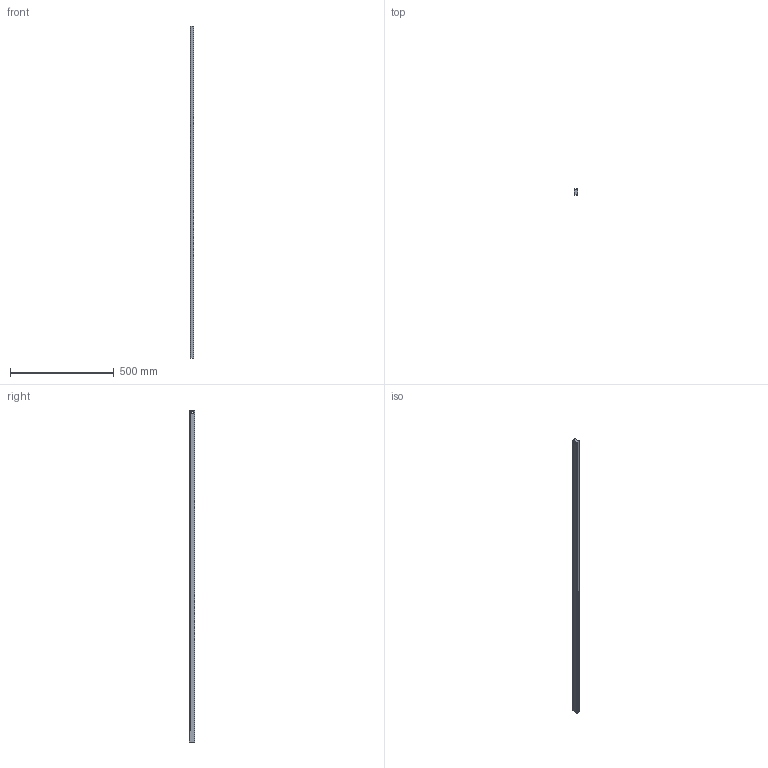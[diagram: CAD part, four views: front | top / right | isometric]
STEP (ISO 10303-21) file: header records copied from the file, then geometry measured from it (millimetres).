
FILE_DESCRIPTION (( 'STEP AP214' ), '1' );
FILE_NAME ('ZSZ 20.4214_61404.2597.14_STEP_20150226.STEP', '2015-02-26T10:32:32', ( '' ), ( '' ), 'SwSTEP 2.0', 'SolidWorks 2013', '' );
FILE_SCHEMA (( 'AUTOMOTIVE_DESIGN' ));
Length unit declared in the file: millimetre
Products named in the file (1): ZSZ 20.4214_61404.2597.14_STEP_20150226
Bounding box: 15 x 28 x 1600 mm (x, y, z)
Volume: 612972.7 mm3; surface area: 151076 mm2
Topology: 1 solids, 1 shells, 1492 faces, 4470 edges, 2980 vertices
Faces by surface type: plane 994, cylinder 498
Entity records: 49244 total; most frequent: CARTESIAN_POINT 11901, ORIENTED_EDGE 8940, DIRECTION 6482, EDGE_CURVE 4470, LINE 3472, VECTOR 3472, VERTEX_POINT 2980, AXIS2_PLACEMENT_3D 1505
